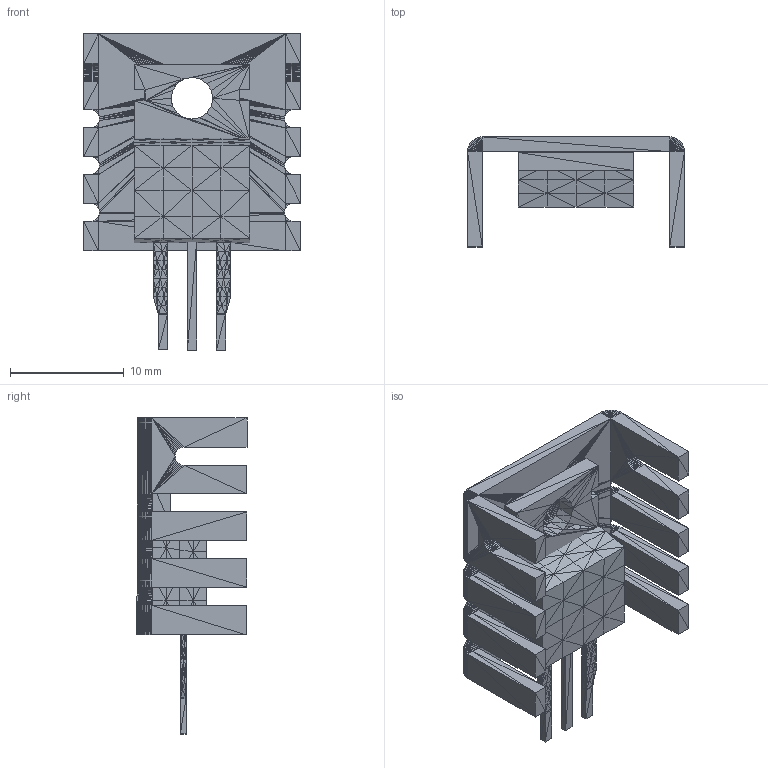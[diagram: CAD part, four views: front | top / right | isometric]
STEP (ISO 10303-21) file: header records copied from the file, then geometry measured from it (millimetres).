
FILE_DESCRIPTION(('HOOPS Exchange Step'),'2;1');
FILE_NAME('***.stp');
FILE_SCHEMA( ('AP242_MANAGED_MODEL_BASED_3D_ENGINEERING_MIM_LF {1 0 10303 442 1 1 4 }') );
Length unit declared in the file: inch
Products named in the file (10): TO-220WHTSNKSM_2; TO-220WHTSNKSM_3; TO-220WHTSNKSM_4; TO-220WHTSNKSM_5; TO-220WHTSNKSM_6; TO-220WHTSNKSM_7; TO-220WHTSNKSM_8; TO-220WHTSNKSM_9; TO-220WHTSNKSM_10; TO-220WHTSNKSM
Assembly tree (9 placements, depth 2):
  TO-220WHTSNKSM
    TO-220WHTSNKSM_2
    TO-220WHTSNKSM_3
    TO-220WHTSNKSM_4
    TO-220WHTSNKSM_5
    TO-220WHTSNKSM_6
    TO-220WHTSNKSM_7
    TO-220WHTSNKSM_8
    TO-220WHTSNKSM_9
    TO-220WHTSNKSM_10
Bounding box: 19.05 x 9.66 x 27.75 mm (x, y, z)
Surface area: 4327.2 mm2 (no closed solid volume)
Topology: 0 solids, 4254 shells, 4254 faces, 9648 edges, 8970 vertices
Faces by surface type: plane 4254
Entity records: 121994 total; most frequent: CARTESIAN_POINT 22892, DIRECTION 18196, ORIENTED_EDGE 12762, VECTOR 9648, LINE 9648, EDGE_CURVE 9648, VERTEX_POINT 8970, AXIS2_PLACEMENT_3D 4274
